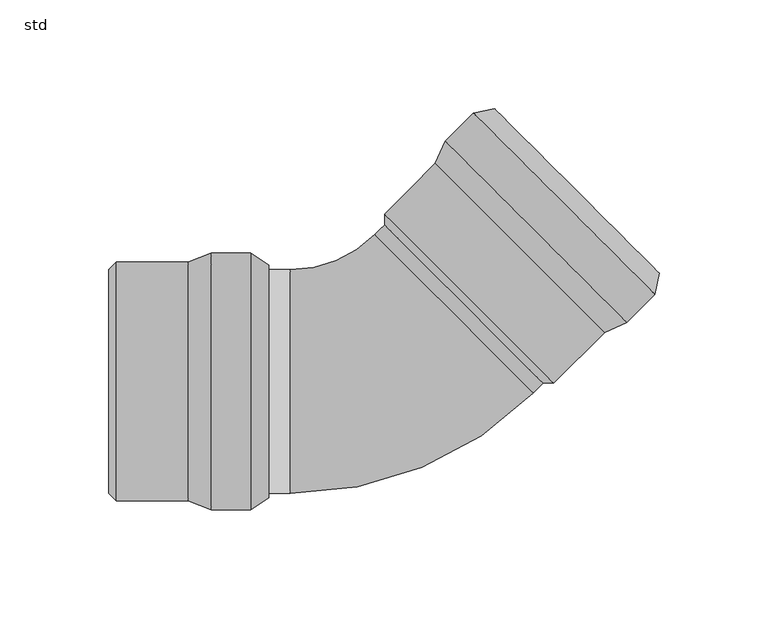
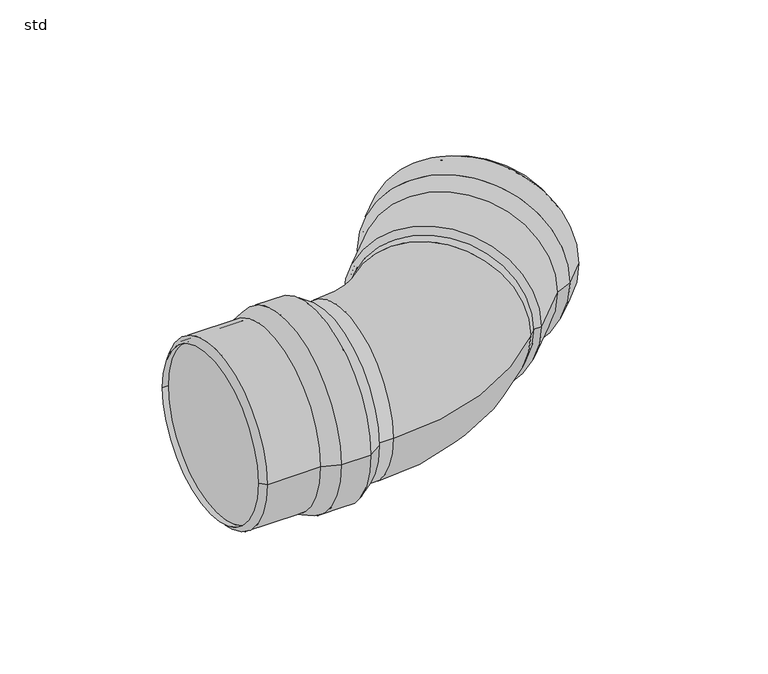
"""IFC4 building model written with IfcOpenShell, lengths in millimetres: pipe fitting geometry, PIF_ST_UN_GM-X pipe bend_ACO : std."""

import ifcopenshell
import ifcopenshell.guid

model = None  # the IFC model being written
_history = None  # IfcOwnerHistory: only IFC2X3 demands one
_inside = {}  # id of a spatial element -> (the spatial element, [elements in it])
_under = {}  # id of a project, library or spatial element -> (it, [spatial elements below it])
_declared = {}  # id of a project -> (the project, [libraries it declares])
_typed = {}  # id of a type object -> (the type object, [elements of that type])
_made_of = {}  # id of a material, layer set ... -> (it, [elements and type objects made of it])


def new_model(schema):
    """Start an empty IFC model of exactly this schema.

    Asked for "IFC4X3", IfcOpenShell would pick the latest addendum, in which some entities
    have other attributes; the version numbers below select the first issue.
    IFC2X3 requires an IfcOwnerHistory on every rooted entity: one is made here for all.
    """
    global model, _history
    if schema == "IFC4X3":
        model = ifcopenshell.file(schema_version=(4, 3, 0, 0))
    else:
        model = ifcopenshell.file(schema=schema)
    _inside.clear()
    _under.clear()
    _declared.clear()
    _typed.clear()
    _made_of.clear()
    _history = None
    if model.schema == "IFC2X3":
        org = make("IfcOrganization", Name="unknown")
        user = make(
            "IfcPersonAndOrganization",
            ThePerson=make("IfcPerson", FamilyName="unknown"),
            TheOrganization=org,
        )
        app = make(
            "IfcApplication",
            ApplicationDeveloper=org,
            Version="unknown",
            ApplicationFullName="unknown",
            ApplicationIdentifier="unknown",
        )
        _history = make(
            "IfcOwnerHistory",
            OwningUser=user,
            OwningApplication=app,
            ChangeAction="ADDED",
            CreationDate=0,
        )
    return model


def make(cls, **values):
    """One entity of the class cls with the attributes given. An attribute that is None is left unset."""
    return model.create_entity(
        cls, **{name: value for name, value in values.items() if value is not None}
    )


def rooted(cls, **values):
    """An entity with a GlobalId (a new one), such as an element, a storey or a relation."""
    return make(cls, GlobalId=ifcopenshell.guid.new(), OwnerHistory=_history, **values)


def si_unit(unit_type, name, prefix=None):
    """IfcSIUnit, for example si_unit("LENGTHUNIT", "METRE", prefix="MILLI")."""
    return make("IfcSIUnit", UnitType=unit_type, Prefix=prefix, Name=name)


def assignment(units):
    """IfcUnitAssignment: the units of a project."""
    return None if units is None else make("IfcUnitAssignment", Units=units)


def point(xyz):
    """IfcCartesianPoint."""
    return None if xyz is None else make("IfcCartesianPoint", Coordinates=xyz)


def direction(xyz):
    """IfcDirection."""
    return None if xyz is None else make("IfcDirection", DirectionRatios=xyz)


def frame(location, z_axis=None, x_axis=None):
    """IfcAxis2Placement3D, a coordinate frame: its origin and axes. An axis left out is left unset."""
    return make(
        "IfcAxis2Placement3D",
        Location=point(location),
        Axis=direction(z_axis),
        RefDirection=direction(x_axis),
    )


def origin():
    """The frame at (0, 0, 0) with its axes left unset."""
    return frame((0.0, 0.0, 0.0))


def place(relative_to, where):
    """IfcLocalPlacement: puts the frame where relative to a parent placement (None: the world)."""
    return make(
        "IfcLocalPlacement", PlacementRelTo=relative_to, RelativePlacement=where
    )


def context(
    kind, dimensions, precision=None, world=None, true_north=None, identifier=None
):
    """IfcGeometricRepresentationContext, for example the 3D "Model" context."""
    return make(
        "IfcGeometricRepresentationContext",
        ContextIdentifier=identifier,
        ContextType=kind,
        CoordinateSpaceDimension=dimensions,
        Precision=precision,
        WorldCoordinateSystem=world,
        TrueNorth=true_north,
    )


def project(units=None, contexts=None):
    """IfcProject with its units and contexts."""
    return rooted(
        "IfcProject",
        Name="project",
        RepresentationContexts=contexts,
        UnitsInContext=assignment(units),
    )


def spatial(cls, under=None, at=None, **own):
    """A site, building, storey or space (cls), placed at a placement, below another one or the project."""
    s = rooted(cls, ObjectPlacement=at, **own)
    if under is not None:
        _under.setdefault(under.id(), (under, []))[1].append(s)
    return s


def polyline(points):
    """IfcPolyline through the points."""
    return make("IfcPolyline", Points=[point(p) for p in points])


def circle_curve(where, radius):
    """IfcCircle in the frame where."""
    return make("IfcCircle", Position=where, Radius=radius)


def ellipse_curve(where, semi_axis1, semi_axis2):
    """IfcEllipse in the frame where."""
    return make(
        "IfcEllipse", Position=where, SemiAxis1=semi_axis1, SemiAxis2=semi_axis2
    )


def trimmed(basis, trim1, trim2, sense, master):
    """IfcTrimmedCurve: the piece of a basis curve between two trims."""
    return make(
        "IfcTrimmedCurve",
        BasisCurve=basis,
        Trim1=trim1,
        Trim2=trim2,
        SenseAgreement=sense,
        MasterRepresentation=master,
    )


def shape(context_of_items, identifier, shape_type, items):
    """IfcShapeRepresentation: the items that make up one representation, for example the "Body"."""
    return make(
        "IfcShapeRepresentation",
        ContextOfItems=context_of_items,
        RepresentationIdentifier=identifier,
        RepresentationType=shape_type,
        Items=items,
    )


def source(mapping_origin, context_of_items, identifier, shape_type, items):
    """IfcRepresentationMap: a shape defined once, which mapped items show again and again."""
    return make(
        "IfcRepresentationMap",
        MappingOrigin=mapping_origin,
        MappedRepresentation=shape(context_of_items, identifier, shape_type, items),
    )


def transform(
    local_origin,
    x_axis=None,
    y_axis=None,
    z_axis=None,
    scale=None,
    scale2=None,
    scale3=None,
    uniform=True,
):
    """IfcCartesianTransformationOperator3D, or its non-uniform kind. x_axis, y_axis, z_axis: its Axis1, 2, 3."""
    if uniform:
        return make(
            "IfcCartesianTransformationOperator3D",
            Axis1=direction(x_axis),
            Axis2=direction(y_axis),
            LocalOrigin=point(local_origin),
            Scale=scale,
            Axis3=direction(z_axis),
        )
    return make(
        "IfcCartesianTransformationOperator3DnonUniform",
        Axis1=direction(x_axis),
        Axis2=direction(y_axis),
        LocalOrigin=point(local_origin),
        Scale=scale,
        Axis3=direction(z_axis),
        Scale2=scale2,
        Scale3=scale3,
    )


def mapped(mapping_source, mapping_target):
    """IfcMappedItem: shows the shape of a source again, moved by a transform."""
    return make(
        "IfcMappedItem", MappingSource=mapping_source, MappingTarget=mapping_target
    )


def made_of(thing, what):
    """Note that an element or type object is made of a material, layer set ...; save() writes the relation."""
    if what is not None:
        _made_of.setdefault(what.id(), (what, []))[1].append(thing)
    return thing


def element(
    cls,
    number,
    at=None,
    inside=None,
    cuts=None,
    type_object=None,
    material=None,
    context=None,
    identifier="Body",
    shape_type=None,
    held_by="IfcProductDefinitionShape",
    body=None,
    shapes=None,
    **own,
):
    """One element of the class cls, such as IfcWall. Its Tag is "e" and its number.

    at: its placement. inside: the storey or other place that contains it. cuts: it is an
    opening in that element (IfcRelVoidsElement). A single representation is given by context,
    identifier, shape_type and body (its items); several are given by shapes. held_by: the class
    of the entity that holds the representations. save() writes the other relations.
    """
    e = rooted(cls, Tag="e%d" % number, ObjectPlacement=at, **own)
    if body is not None:
        shapes = [shape(context, identifier, shape_type, body)]
    if shapes is not None:
        e.Representation = make(held_by, Representations=shapes)
    if inside is not None:
        _inside.setdefault(inside.id(), (inside, []))[1].append(e)
    if cuts is not None:
        rooted(
            "IfcRelVoidsElement", RelatingBuildingElement=cuts, RelatedOpeningElement=e
        )
    if type_object is not None:
        _typed.setdefault(type_object.id(), (type_object, []))[1].append(e)
    return made_of(e, material)


def aggregate(whole, parts):
    """IfcRelAggregates: a whole, such as a stair, and the parts it consists of."""
    return rooted("IfcRelAggregates", RelatingObject=whole, RelatedObjects=parts)


def save(model, path):
    """Write the relations noted so far, then the file.

    IfcRelAggregates (storeys below a building ...), IfcRelContainedInSpatialStructure (elements
    in a storey), IfcRelDefinesByType, IfcRelAssociatesMaterial and IfcRelDeclares: one each for
    every whole, place, type object, material and project.
    """
    for whole, parts in _under.values():
        aggregate(whole, parts)
    for where, things in _inside.values():
        rooted(
            "IfcRelContainedInSpatialStructure",
            RelatedElements=things,
            RelatingStructure=where,
        )
    for kind, things in _typed.values():
        rooted("IfcRelDefinesByType", RelatedObjects=things, RelatingType=kind)
    for what, things in _made_of.values():
        rooted("IfcRelAssociatesMaterial", RelatedObjects=things, RelatingMaterial=what)
    for by, libraries in _declared.values():
        rooted("IfcRelDeclares", RelatingContext=by, RelatedDefinitions=libraries)
    model.write(path)


def plane_surface(at):
    """IfcPlane: the flat surface through the origin of the frame at, square to its z axis."""
    return make("IfcPlane", Position=at)


def cylinder_surface(at, radius):
    """IfcCylindricalSurface: all points at the distance radius from the z axis of the frame at."""
    return make("IfcCylindricalSurface", Position=at, Radius=radius)


def revolved_surface(curve, axis_point, axis_direction):
    """IfcSurfaceOfRevolution: the curve turned about the line through axis_point along axis_direction."""
    return make(
        "IfcSurfaceOfRevolution",
        SweptCurve=make("IfcArbitraryOpenProfileDef", ProfileType="CURVE", Curve=curve),
        AxisPosition=make("IfcAxis1Placement", Location=point(axis_point), Axis=direction(axis_direction)),
    )


def advanced_brep(points, edges, surfaces, faces):
    """IfcAdvancedBrep: a solid bounded by faces that lie on surfaces and meet in shared edges.

    An edge is (start, end): straight between two places in points (the first is 0);
    or (start, end, curve); or (start, end, curve, False) where it runs against its curve.
    A face is (place in surfaces, loops), or (place, loops, False) where it looks against
    its surface's normal. A loop lists edges by number (the first is 1), with a minus sign
    where the edge is run from its end to its start. The first loop is the outer one.
    """
    corners = [point(p) for p in points]
    vertices = [make("IfcVertexPoint", VertexGeometry=c) for c in corners]
    made = []
    for start, end, *more in edges:
        made.append(
            make(
                "IfcEdgeCurve",
                EdgeStart=vertices[start],
                EdgeEnd=vertices[end],
                EdgeGeometry=more[0] if more else make("IfcPolyline", Points=[corners[start], corners[end]]),
                SameSense=more[1] if len(more) > 1 else True,
            )
        )
    hull = []
    for where, loops, *sense in faces:
        bounds = []
        for j, loop in enumerate(loops):
            ring = [make("IfcOrientedEdge", EdgeElement=made[abs(k) - 1], Orientation=k > 0) for k in loop]
            bounds.append(
                make(
                    "IfcFaceOuterBound" if j == 0 else "IfcFaceBound",
                    Bound=make("IfcEdgeLoop", EdgeList=ring),
                    Orientation=True,
                )
            )
        hull.append(make("IfcAdvancedFace", Bounds=bounds, FaceSurface=surfaces[where], SameSense=sense[0] if sense else True))
    return make("IfcAdvancedBrep", Outer=make("IfcClosedShell", CfsFaces=hull))


def std_8cd94035(model_context):
    return source(origin(), model_context, "Body", "AdvancedBrep", [
        advanced_brep(
        [(-80.5, -59.0, 0.0), (-80.5, 59.0, 0.0), (-62.3, 59.0, 0.0), (-62.3, -59.0, 0.0), (-91.0, -55.0, 0.0), (-91.0, 55.0, 0.0), (-54.0, 53.5, 0.0), (-54.0, -53.5, 0.0), (-124.0, -55.0, 0.0), (-124.0, 55.0, 0.0), (-127.5, -51.5, 0.0), (-127.5, 51.5, 0.0), (-124.0, -51.5, 0.0), (-124.0, 51.5, 0.0), (-90.6319487, -53.0, 0.0), (-90.6319487, 53.0, 0.0), (-124.0, 53.0, 0.0), (-124.0, -53.0, 0.0), (-80.1319487, -57.0, 0.0), (-80.1319487, 57.0, 0.0), (-62.9025117, -57.0, 0.0), (-62.9025117, 57.0, 0.0), (-55.1047607, -51.8328156, 0.0), (-55.1047607, 51.8328156, 0.0)],
        [
            (0, 1, circle_curve(frame((-80.5, 0.0, 0.0), z_axis=(1.0, 0.0, 0.0), x_axis=(0.0, 1.0, 0.0)), 59.0)),
            (1, 2),
            (2, 3, circle_curve(frame((-62.3, 0.0, 0.0), z_axis=(-1.0, 0.0, 0.0), x_axis=(0.0, 1.0, 0.0)), 59.0)),
            (3, 0),
            (1, 0, circle_curve(frame((-80.5, 0.0, 0.0), z_axis=(1.0, 0.0, 0.0), x_axis=(0.0, 1.0, 0.0)), 59.0)),
            (3, 2, circle_curve(frame((-62.3, 0.0, 0.0), z_axis=(-1.0, 0.0, 0.0), x_axis=(0.0, 1.0, 0.0)), 59.0)),
            (4, 5, circle_curve(frame((-91.0, 0.0, 0.0), z_axis=(1.0, 0.0, 0.0), x_axis=(0.0, 1.0, 0.0)), 55.0)),
            (5, 1),
            (0, 4),
            (5, 4, circle_curve(frame((-91.0, 0.0, 0.0), z_axis=(1.0, 0.0, 0.0), x_axis=(0.0, 1.0, 0.0)), 55.0)),
            (2, 6),
            (6, 7, circle_curve(frame((-54.0, 0.0, 0.0), z_axis=(-1.0, 0.0, 0.0), x_axis=(0.0, 1.0, 0.0)), 53.5)),
            (7, 3),
            (7, 6, circle_curve(frame((-54.0, 0.0, 0.0), z_axis=(-1.0, 0.0, 0.0), x_axis=(0.0, 1.0, 0.0)), 53.5)),
            (8, 9, circle_curve(frame((-124.0, 0.0, 0.0), z_axis=(1.0, 0.0, 0.0), x_axis=(0.0, 1.0, 0.0)), 55.0)),
            (9, 5),
            (4, 8),
            (9, 8, circle_curve(frame((-124.0, 0.0, 0.0), z_axis=(1.0, 0.0, 0.0), x_axis=(0.0, 1.0, 0.0)), 55.0)),
            (10, 11, circle_curve(frame((-127.5, 0.0, 0.0), z_axis=(1.0, 0.0, 0.0), x_axis=(0.0, 1.0, 0.0)), 51.5)),
            (11, 9),
            (8, 10),
            (11, 10, circle_curve(frame((-127.5, 0.0, 0.0), z_axis=(1.0, 0.0, 0.0), x_axis=(0.0, 1.0, 0.0)), 51.5)),
            (12, 13, circle_curve(frame((-124.0, 0.0, 0.0), z_axis=(1.0, 0.0, 0.0), x_axis=(0.0, 1.0, 0.0)), 51.5)),
            (13, 11),
            (10, 12),
            (13, 12, circle_curve(frame((-124.0, 0.0, 0.0), z_axis=(1.0, 0.0, 0.0), x_axis=(0.0, 1.0, 0.0)), 51.5)),
            (14, 15, circle_curve(frame((-90.6319487, 0.0, 0.0), z_axis=(1.0, 0.0, 0.0), x_axis=(0.0, 1.0, 0.0)), 53.0)),
            (15, 16),
            (16, 17, circle_curve(frame((-124.0, 0.0, 0.0), z_axis=(-1.0, 0.0, 0.0), x_axis=(0.0, 1.0, 0.0)), 53.0)),
            (17, 14),
            (15, 14, circle_curve(frame((-90.6319487, 0.0, 0.0), z_axis=(1.0, 0.0, 0.0), x_axis=(0.0, 1.0, 0.0)), 53.0)),
            (17, 16, circle_curve(frame((-124.0, 0.0, 0.0), z_axis=(-1.0, 0.0, 0.0), x_axis=(0.0, 1.0, 0.0)), 53.0)),
            (18, 19, circle_curve(frame((-80.1319487, 0.0, 0.0), z_axis=(1.0, 0.0, 0.0), x_axis=(0.0, 1.0, 0.0)), 57.0)),
            (19, 15),
            (14, 18),
            (19, 18, circle_curve(frame((-80.1319487, 0.0, 0.0), z_axis=(1.0, 0.0, 0.0), x_axis=(0.0, 1.0, 0.0)), 57.0)),
            (20, 21, circle_curve(frame((-62.9025117, 0.0, 0.0), z_axis=(1.0, 0.0, 0.0), x_axis=(0.0, 1.0, 0.0)), 57.0)),
            (21, 19),
            (18, 20),
            (21, 20, circle_curve(frame((-62.9025117, 0.0, 0.0), z_axis=(1.0, 0.0, 0.0), x_axis=(0.0, 1.0, 0.0)), 57.0)),
            (22, 23, circle_curve(frame((-55.1047607, 0.0, 0.0), z_axis=(1.0, 0.0, 0.0), x_axis=(0.0, 1.0, 0.0)), 51.8328156)),
            (23, 21),
            (20, 22),
            (23, 22, circle_curve(frame((-55.1047607, 0.0, 0.0), z_axis=(1.0, 0.0, 0.0), x_axis=(0.0, 1.0, 0.0)), 51.8328156)),
            (6, 23),
            (22, 7),
            (16, 13),
            (12, 17),
        ],
        [
            cylinder_surface(frame((-57.3555883, 0.0, 0.0), z_axis=(-1.0, 0.0, 0.0), x_axis=(0.0, 1.0, 0.0)), 59.0),
            revolved_surface(polyline([(-80.5, 59.0, 0.0), (-91.0, 55.0, 0.0)]), (-57.3555883, 0.0, 0.0), (-1.0, 0.0, 0.0)),
            revolved_surface(polyline([(-54.0, 53.5, 0.0), (-62.3, 59.0, 0.0)]), (-57.3555883, 0.0, 0.0), (-1.0, 0.0, 0.0)),
            cylinder_surface(frame((-57.3555883, 0.0, 0.0), z_axis=(-1.0, 0.0, 0.0), x_axis=(0.0, 1.0, 0.0)), 55.0),
            revolved_surface(polyline([(-124.0, 55.0, 0.0), (-127.5, 51.5, 0.0)]), (-57.3555883, 0.0, 0.0), (-1.0, 0.0, 0.0)),
            revolved_surface(polyline([(-127.5, 51.5, 0.0), (-124.0, 51.5, 0.0)]), (-57.3555883, 0.0, 0.0), (-1.0, 0.0, 0.0)),
            revolved_surface(polyline([(-124.0, 53.0, 0.0), (-90.6319487, 53.0, 0.0)]), (-57.3555883, 0.0, 0.0), (-1.0, 0.0, 0.0)),
            revolved_surface(polyline([(-90.6319487, 53.0, 0.0), (-80.1319487, 57.0, 0.0)]), (-57.3555883, 0.0, 0.0), (-1.0, 0.0, 0.0)),
            revolved_surface(polyline([(-80.1319487, 57.0, 0.0), (-62.9025117, 57.0, 0.0)]), (-57.3555883, 0.0, 0.0), (-1.0, 0.0, 0.0)),
            revolved_surface(polyline([(-62.9025117, 57.0, 0.0), (-55.1047607, 51.8328156, 0.0)]), (-57.3555883, 0.0, 0.0), (-1.0, 0.0, 0.0)),
            revolved_surface(polyline([(-55.1047607, 51.8328156, 0.0), (-54.0, 53.5, 0.0)]), (-57.3555883, 0.0, 0.0), (-1.0, 0.0, 0.0)),
            plane_surface(frame((-124.0, 0.0, 0.0), z_axis=(1.0, 0.0, 0.0), x_axis=(0.0, 1.0, 0.0))),
        ],
        [
            (0, [[1, 2, 3, 4]]),
            (0, [[5, -4, 6, -2]]),
            (1, [[7, 8, -1, 9]]),
            (1, [[10, -9, -5, -8]]),
            (2, [[-3, 11, 12, 13]]),
            (2, [[-6, -13, 14, -11]]),
            (3, [[15, 16, -7, 17]]),
            (3, [[18, -17, -10, -16]]),
            (4, [[19, 20, -15, 21]]),
            (4, [[22, -21, -18, -20]]),
            (5, [[23, 24, -19, 25]]),
            (5, [[26, -25, -22, -24]]),
            (6, [[27, 28, 29, 30]]),
            (6, [[31, -30, 32, -28]]),
            (7, [[33, 34, -27, 35]]),
            (7, [[36, -35, -31, -34]]),
            (8, [[37, 38, -33, 39]]),
            (8, [[40, -39, -36, -38]]),
            (9, [[41, 42, -37, 43]]),
            (9, [[44, -43, -40, -42]]),
            (10, [[-12, 45, -41, 46]]),
            (10, [[-14, -46, -44, -45]]),
            (11, [[-29, 47, -23, 48]]),
            (11, [[-32, -48, -26, -47]]),
        ],
    ),
        advanced_brep(
        [(110.6647475, 27.2132993, 0.0), (27.2339226, 110.659674, 0.0), (40.1044652, 123.5278182, 0.0), (123.5352901, 40.0814435, 0.0), (100.4112709, 22.6180606, 0.0), (22.6367732, 100.407054, 0.0), (49.8627232, 125.5068079, 0.0), (125.5160983, 49.8393325, 0.0), (77.0745729, -0.7142887, 0.0), (-0.6999249, 77.0747047, 0.0), (72.1248255, -0.7138275, 0.0), (-0.7003861, 72.1249573, 0.0), (74.5999298, 1.7608156, 0.0), (1.7747183, 74.5996004, 0.0), (99.257465, 24.2926333, 0.0), (24.3111307, 99.252936, 0.0), (0.7141569, 75.6603594, 0.0), (75.6604911, 0.7000566, 0.0), (109.5109415, 28.8878719, 0.0), (28.9082802, 109.505556, 0.0), (121.6951285, 41.0697884, 0.0), (41.0924671, 121.6874725, 0.0), (123.5560742, 50.2372087, 0.0), (50.2602341, 123.5467097, 0.0)],
        [
            (0, 1, circle_curve(frame((68.9493351, 68.9364867, 0.0), z_axis=(0.7071726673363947, 0.7070408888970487, 0.0), x_axis=(-0.7070408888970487, 0.7071726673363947, 0.0)), 59.0)),
            (1, 2),
            (2, 3, circle_curve(frame((81.8198776, 81.8046308, 0.0), z_axis=(-0.7071726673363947, -0.7070408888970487, 0.0), x_axis=(-0.7070408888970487, 0.7071726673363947, 0.0)), 59.0)),
            (3, 0),
            (1, 0, circle_curve(frame((68.9493351, 68.9364867, 0.0), z_axis=(0.7071726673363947, 0.7070408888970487, 0.0), x_axis=(-0.7070408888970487, 0.7071726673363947, 0.0)), 59.0)),
            (3, 2, circle_curve(frame((81.8198776, 81.8046308, 0.0), z_axis=(-0.7071726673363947, -0.7070408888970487, 0.0), x_axis=(-0.7070408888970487, 0.7071726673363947, 0.0)), 59.0)),
            (4, 5, circle_curve(frame((61.5240221, 61.5125573, 0.0), z_axis=(0.7071726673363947, 0.7070408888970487, 0.0), x_axis=(-0.7070408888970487, 0.7071726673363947, 0.0)), 55.0)),
            (5, 1),
            (0, 4),
            (5, 4, circle_curve(frame((61.5240221, 61.5125573, 0.0), z_axis=(0.7071726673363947, 0.7070408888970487, 0.0), x_axis=(-0.7070408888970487, 0.7071726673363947, 0.0)), 55.0)),
            (2, 6),
            (6, 7, circle_curve(frame((87.6894107, 87.6730702, 0.0), z_axis=(-0.7071726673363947, -0.7070408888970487, 0.0), x_axis=(-0.7070408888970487, 0.7071726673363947, 0.0)), 53.5)),
            (7, 3),
            (7, 6, circle_curve(frame((87.6894107, 87.6730702, 0.0), z_axis=(-0.7071726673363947, -0.7070408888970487, 0.0), x_axis=(-0.7070408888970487, 0.7071726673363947, 0.0)), 53.5)),
            (8, 9, circle_curve(frame((38.187324, 38.180208, 0.0), z_axis=(0.7071726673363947, 0.7070408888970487, 0.0), x_axis=(-0.7070408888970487, 0.7071726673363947, 0.0)), 55.0)),
            (9, 5),
            (4, 8),
            (9, 8, circle_curve(frame((38.187324, 38.180208, 0.0), z_axis=(0.7071726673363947, 0.7070408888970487, 0.0), x_axis=(-0.7070408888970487, 0.7071726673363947, 0.0)), 55.0)),
            (10, 11, circle_curve(frame((35.7122197, 35.7055649, 0.0), z_axis=(0.7071726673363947, 0.7070408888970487, 0.0), x_axis=(-0.7070408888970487, 0.7071726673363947, 0.0)), 51.5)),
            (11, 9),
            (8, 10),
            (11, 10, circle_curve(frame((35.7122197, 35.7055649, 0.0), z_axis=(0.7071726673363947, 0.7070408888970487, 0.0), x_axis=(-0.7070408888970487, 0.7071726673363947, 0.0)), 51.5)),
            (12, 13, circle_curve(frame((38.187324, 38.180208, 0.0), z_axis=(0.7071726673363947, 0.7070408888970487, 0.0), x_axis=(-0.7070408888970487, 0.7071726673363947, 0.0)), 51.5)),
            (13, 11),
            (10, 12),
            (13, 12, circle_curve(frame((38.187324, 38.180208, 0.0), z_axis=(0.7071726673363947, 0.7070408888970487, 0.0), x_axis=(-0.7070408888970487, 0.7071726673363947, 0.0)), 51.5)),
            (14, 15, circle_curve(frame((61.7842979, 61.7727846, 0.0), z_axis=(0.7071726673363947, 0.7070408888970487, 0.0), x_axis=(-0.7070408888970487, 0.7071726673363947, 0.0)), 53.0)),
            (15, 16),
            (16, 17, circle_curve(frame((38.187324, 38.180208, 0.0), z_axis=(-0.7071726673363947, -0.7070408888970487, 0.0), x_axis=(-0.7070408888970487, 0.7071726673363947, 0.0)), 53.0)),
            (17, 14),
            (15, 14, circle_curve(frame((61.7842979, 61.7727846, 0.0), z_axis=(0.7071726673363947, 0.7070408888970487, 0.0), x_axis=(-0.7070408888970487, 0.7071726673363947, 0.0)), 53.0)),
            (17, 16, circle_curve(frame((38.187324, 38.180208, 0.0), z_axis=(-0.7071726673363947, -0.7070408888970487, 0.0), x_axis=(-0.7070408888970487, 0.7071726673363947, 0.0)), 53.0)),
            (18, 19, circle_curve(frame((69.2096109, 69.196714, 0.0), z_axis=(0.7071726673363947, 0.7070408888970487, 0.0), x_axis=(-0.7070408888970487, 0.7071726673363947, 0.0)), 57.0)),
            (19, 15),
            (14, 18),
            (19, 18, circle_curve(frame((69.2096109, 69.196714, 0.0), z_axis=(0.7071726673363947, 0.7070408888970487, 0.0), x_axis=(-0.7070408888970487, 0.7071726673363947, 0.0)), 57.0)),
            (20, 21, circle_curve(frame((81.3937978, 81.3786304, 0.0), z_axis=(0.7071726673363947, 0.7070408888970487, 0.0), x_axis=(-0.7070408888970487, 0.7071726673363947, 0.0)), 57.0)),
            (21, 19),
            (18, 20),
            (21, 20, circle_curve(frame((81.3937978, 81.3786304, 0.0), z_axis=(0.7071726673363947, 0.7070408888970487, 0.0), x_axis=(-0.7070408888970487, 0.7071726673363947, 0.0)), 57.0)),
            (22, 23, circle_curve(frame((86.9081542, 86.8919592, 0.0), z_axis=(0.7071726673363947, 0.7070408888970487, 0.0), x_axis=(-0.7070408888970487, 0.7071726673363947, 0.0)), 51.8328156)),
            (23, 21),
            (20, 22),
            (23, 22, circle_curve(frame((86.9081542, 86.8919592, 0.0), z_axis=(0.7071726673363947, 0.7070408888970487, 0.0), x_axis=(-0.7070408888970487, 0.7071726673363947, 0.0)), 51.8328156)),
            (6, 23),
            (22, 7),
            (16, 13),
            (12, 17),
        ],
        [
            cylinder_surface(frame((85.3164304, 85.3005321, 0.0), z_axis=(-0.7071726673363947, -0.7070408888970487, 0.0), x_axis=(-0.7070408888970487, 0.7071726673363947, 0.0)), 59.0),
            revolved_surface(polyline([(27.2339226, 110.659674, 0.0), (22.6367732, 100.407054, 0.0)]), (85.3164304, 85.3005321, 0.0), (-0.7071726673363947, -0.7070408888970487, 0.0)),
            revolved_surface(polyline([(49.8627232, 125.5068079, 0.0), (40.1044652, 123.5278182, 0.0)]), (85.3164304, 85.3005321, 0.0), (-0.7071726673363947, -0.7070408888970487, 0.0)),
            cylinder_surface(frame((85.3164304, 85.3005321, 0.0), z_axis=(-0.7071726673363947, -0.7070408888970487, 0.0), x_axis=(-0.7070408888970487, 0.7071726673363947, 0.0)), 55.0),
            revolved_surface(polyline([(-0.6999249, 77.0747047, 0.0), (-0.7003861, 72.1249573, 0.0)]), (85.3164304, 85.3005321, 0.0), (-0.7071726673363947, -0.7070408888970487, 0.0)),
            revolved_surface(polyline([(-0.7003860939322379, 72.12495727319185, 0.0), (1.7747182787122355, 74.59960042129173, 0.0)]), (85.3164304, 85.3005321, 0.0), (-0.7071726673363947, -0.7070408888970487, 0.0)),
            revolved_surface(polyline([(0.7141568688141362, 75.66035934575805, 0.0), (24.311130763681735, 99.2529360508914, 0.0)]), (85.3164304, 85.3005321, 0.0), (-0.7071726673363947, -0.7070408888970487, 0.0)),
            revolved_surface(polyline([(24.3111307, 99.252936, 0.0), (28.9082802, 109.505556, 0.0)]), (85.3164304, 85.3005321, 0.0), (-0.7071726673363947, -0.7070408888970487, 0.0)),
            revolved_surface(polyline([(28.908280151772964, 109.50555599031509, 0.0), (41.09246713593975, 121.68747250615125, 0.0)]), (85.3164304, 85.3005321, 0.0), (-0.7071726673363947, -0.7070408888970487, 0.0)),
            revolved_surface(polyline([(41.0924671, 121.6874725, 0.0), (50.2602341, 123.5467097, 0.0)]), (85.3164304, 85.3005321, 0.0), (-0.7071726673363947, -0.7070408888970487, 0.0)),
            revolved_surface(polyline([(50.2602341, 123.5467097, 0.0), (49.8627232, 125.5068079, 0.0)]), (85.3164304, 85.3005321, 0.0), (-0.7071726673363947, -0.7070408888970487, 0.0)),
            plane_surface(frame((38.187324, 38.180208, 0.0), z_axis=(0.7071726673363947, 0.7070408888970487, 0.0), x_axis=(-0.7070408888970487, 0.7071726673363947, 0.0))),
        ],
        [
            (0, [[1, 2, 3, 4]]),
            (0, [[5, -4, 6, -2]]),
            (1, [[7, 8, -1, 9]]),
            (1, [[10, -9, -5, -8]]),
            (2, [[-3, 11, 12, 13]]),
            (2, [[-6, -13, 14, -11]]),
            (3, [[15, 16, -7, 17]]),
            (3, [[18, -17, -10, -16]]),
            (4, [[19, 20, -15, 21]]),
            (4, [[22, -21, -18, -20]]),
            (5, [[23, 24, -19, 25]]),
            (5, [[26, -25, -22, -24]]),
            (6, [[27, 28, 29, 30]]),
            (6, [[31, -30, 32, -28]]),
            (7, [[33, 34, -27, 35]]),
            (7, [[36, -35, -31, -34]]),
            (8, [[37, 38, -33, 39]]),
            (8, [[40, -39, -36, -38]]),
            (9, [[41, 42, -37, 43]]),
            (9, [[44, -43, -40, -42]]),
            (10, [[-12, 45, -41, 46]]),
            (10, [[-14, -46, -44, -45]]),
            (11, [[-29, 47, -23, 48]]),
            (11, [[-32, -48, -26, -47]]),
        ],
    ),
        advanced_brep(
        [(-5.2970084, 67.5291915, 0.0), (-44.0, 51.5, 0.0), (-44.0, -51.5, 0.0), (67.5282031, -5.3095933, 0.0), (31.1155974, 31.1097991, 51.5), (31.1155974, 31.1097991, -51.5), (-124.0, -51.5, 0.0), (-124.0, 51.5, 0.0), (74.5999298, 1.7608156, 0.0), (1.7747183, 74.5996004, 0.0)],
        [
            (0, 1, circle_curve(frame((-44.0, 106.2393965, 0.0), z_axis=(0.0, 0.0, -1.0), x_axis=(0.0, -1.0, 0.0)), 54.7393965)),
            (1, 2, circle_curve(frame((-44.0, 0.0, 0.0), z_axis=(1.0, 0.0, 0.0), x_axis=(0.0, 1.0, 0.0)), 51.5)),
            (2, 3, circle_curve(frame((-44.0, 106.2393965, 0.0), z_axis=(0.0, 0.0, 1.0), x_axis=(0.0, -1.0, 0.0)), 157.7393965)),
            (3, 4, circle_curve(frame((31.1155974, 31.1097991, 0.0), z_axis=(-0.7071726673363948, -0.7070408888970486, 0.0), x_axis=(-0.7070408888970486, 0.7071726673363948, 0.0)), 51.5)),
            (4, 0, circle_curve(frame((31.1155974, 31.1097991, 0.0), z_axis=(-0.7071726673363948, -0.7070408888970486, 0.0), x_axis=(-0.7070408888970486, 0.7071726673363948, 0.0)), 51.5)),
            (0, 5, circle_curve(frame((31.1155974, 31.1097991, 0.0), z_axis=(-0.7071726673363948, -0.7070408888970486, 0.0), x_axis=(-0.7070408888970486, 0.7071726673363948, 0.0)), 51.5)),
            (5, 3, circle_curve(frame((31.1155974, 31.1097991, 0.0), z_axis=(-0.7071726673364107, -0.7070408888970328, 0.0), x_axis=(-0.7070408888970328, 0.7071726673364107, 0.0)), 51.5)),
            (2, 1, circle_curve(frame((-44.0, 0.0, 0.0), z_axis=(1.0, 0.0, 0.0), x_axis=(0.0, 1.0, 0.0)), 51.5)),
            (6, 7, circle_curve(frame((-124.0, 0.0, 0.0), z_axis=(-1.0, 0.0, 0.0), x_axis=(0.0, 1.0, 0.0)), 51.5)),
            (7, 6, circle_curve(frame((-124.0, 0.0, 0.0), z_axis=(-1.0, 0.0, 0.0), x_axis=(0.0, 1.0, 0.0)), 51.5)),
            (7, 1),
            (2, 6),
            (8, 9, circle_curve(frame((38.187324, 38.180208, 0.0), z_axis=(0.707172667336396, 0.7070408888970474, 0.0), x_axis=(-0.7070408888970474, 0.707172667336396, 0.0)), 51.5)),
            (9, 8, circle_curve(frame((38.187324, 38.180208, 0.0), z_axis=(0.707172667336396, 0.7070408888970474, 0.0), x_axis=(-0.7070408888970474, 0.707172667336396, 0.0)), 51.5)),
            (9, 0),
            (3, 8),
        ],
        [
            revolved_surface(trimmed(ellipse_curve(frame((-44.0, 0.0, 0.0), z_axis=(-1.0, 0.0, 0.0), x_axis=(0.0, 1.0, 0.0)), 51.5, 51.5), [point((-44.0, -51.5, 0.0))], [point((-44.0, 51.5, 0.0))], True, "CARTESIAN"), (-44.0, 106.2393965, 0.0), (0.0, 0.0, 1.0)),
            revolved_surface(trimmed(ellipse_curve(frame((-44.0, 0.0, 0.0), z_axis=(-1.0, 0.0, 0.0), x_axis=(0.0, 1.0, 0.0)), 51.5, 51.5), [point((-44.0, 51.5, 0.0))], [point((-44.0, -51.5, 0.0))], True, "CARTESIAN"), (-44.0, 106.2393965, 0.0), (0.0, 0.0, 1.0)),
            plane_surface(frame((-124.0, 51.5, 0.0), z_axis=(-1.0, 0.0, 0.0), x_axis=(0.0, 0.0, -1.0))),
            cylinder_surface(frame((-124.0, 0.0, 0.0), z_axis=(1.0, 0.0, 0.0), x_axis=(0.0, 1.0, 0.0)), 51.5),
            plane_surface(frame((38.187324, 38.180208, 0.0), z_axis=(0.707172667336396, 0.7070408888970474, 0.0), x_axis=(0.0, 0.0, 1.0))),
            cylinder_surface(frame((31.1155974, 31.1097991, 0.0), z_axis=(-0.707172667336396, -0.7070408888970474, 0.0), x_axis=(-0.7070408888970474, 0.707172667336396, 0.0)), 51.5),
        ],
        [
            (0, [[1, 2, 3, 4, 5]]),
            (1, [[-1, 6, 7, -3, 8]]),
            (2, [[9, 10]]),
            (3, [[-10, 11, -8, 12]]),
            (3, [[-9, -12, -2, -11]]),
            (4, [[13, 14]]),
            (5, [[-14, 15, -5, -4, 16]]),
            (5, [[-13, -16, -7, -6, -15]]),
        ],
    ),
    ])


if __name__ == "__main__":
    model = new_model("IFC4")
    model_context = context("Model", 3, world=origin())
    ifc_project = project(units=[si_unit("LENGTHUNIT", "METRE", prefix="MILLI")], contexts=[model_context])
    site = spatial("IfcSite", under=ifc_project)
    building = spatial("IfcBuilding", under=site)
    placement = place(None, origin())
    std_shape = std_8cd94035(model_context)
    element("IfcPipeFitting", 1, ObjectType="PIF_ST_UN_GM-X pipe bend_ACO : std", at=placement, inside=building, context=model_context, shape_type="MappedRepresentation", body=[
        mapped(std_shape, transform((0.0, 0.0, 0.0), x_axis=(1.0, 0.0, 0.0), y_axis=(0.0, 1.0, 0.0), z_axis=(0.0, 0.0, 1.0))),
    ])
    save(model, "model.ifc")
